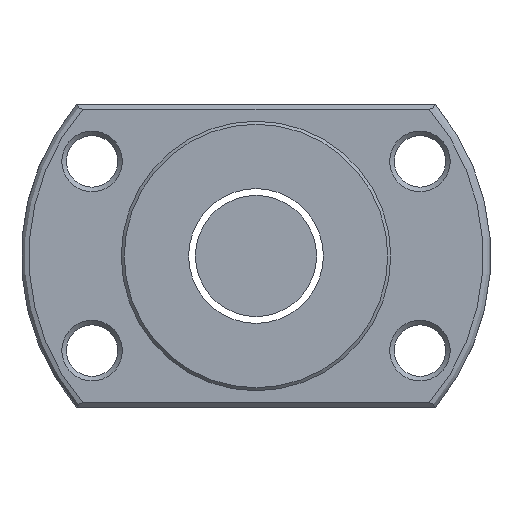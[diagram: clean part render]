
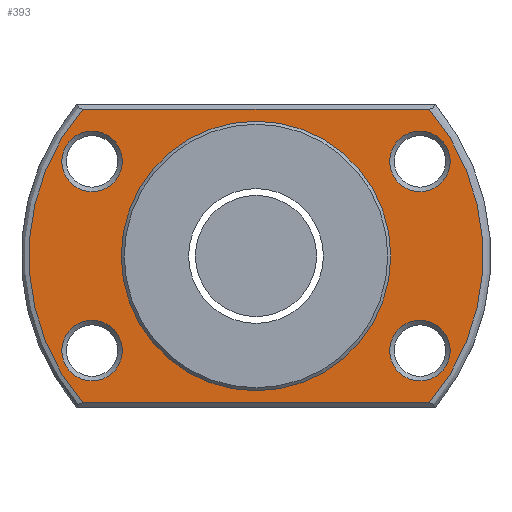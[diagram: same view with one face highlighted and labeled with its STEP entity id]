
A CAD part, left-side view. The second image highlights one B-rep face of the part: STEP entity #393.
In plain terms, the highlighted planar face has unit normal (-1, 0, 0).
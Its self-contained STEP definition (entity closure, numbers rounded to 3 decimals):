
#5 = DIRECTION ( 'NONE',  ( -1., 0., 0. ) ) ;
#7 = DIRECTION ( 'NONE',  ( 0., 1., 0. ) ) ;
#11 = VERTEX_POINT ( 'NONE', #191 ) ;
#12 = CARTESIAN_POINT ( 'NONE',  ( -20., -10.825, 6.25 ) ) ;
#25 = CIRCLE ( 'NONE', #187, 8.7 ) ;
#47 = VERTEX_POINT ( 'NONE', #839 ) ;
#66 = EDGE_CURVE ( 'NONE', #1028, #1028, #179, .T. ) ;
#89 = DIRECTION ( 'NONE',  ( 0., -1., 0. ) ) ;
#139 = CARTESIAN_POINT ( 'NONE',  ( -20., 8.825, -6.25 ) ) ;
#159 = CARTESIAN_POINT ( 'NONE',  ( -20., -12.825, -6.25 ) ) ;
#179 = CIRCLE ( 'NONE', #344, 2. ) ;
#187 = AXIS2_PLACEMENT_3D ( 'NONE', #210, #229, #323 ) ;
#191 = CARTESIAN_POINT ( 'NONE',  ( -20., 11.442, 9.7 ) ) ;
#198 = CARTESIAN_POINT ( 'NONE',  ( -20., -11.442, 9.7 ) ) ;
#201 = EDGE_LOOP ( 'NONE', ( #1059 ) ) ;
#210 = CARTESIAN_POINT ( 'NONE',  ( -20., 0., 0. ) ) ;
#229 = DIRECTION ( 'NONE',  ( 1., 0., 0. ) ) ;
#234 = VERTEX_POINT ( 'NONE', #1183 ) ;
#250 = CARTESIAN_POINT ( 'NONE',  ( -20., -11.442, -9.7 ) ) ;
#256 = CIRCLE ( 'NONE', #528, 15. ) ;
#261 = EDGE_CURVE ( 'NONE', #822, #822, #1063, .T. ) ;
#268 = CIRCLE ( 'NONE', #439, 2. ) ;
#280 = EDGE_LOOP ( 'NONE', ( #893, #1092, #798, #401 ) ) ;
#285 = DIRECTION ( 'NONE',  ( 1., 0., 0. ) ) ;
#288 = CARTESIAN_POINT ( 'NONE',  ( -20., 11.18, 9.7 ) ) ;
#292 = CARTESIAN_POINT ( 'NONE',  ( -20., -11.18, -9.7 ) ) ;
#313 = DIRECTION ( 'NONE',  ( -1., 0., 0. ) ) ;
#315 = EDGE_CURVE ( 'NONE', #11, #234, #256, .T. ) ;
#318 = CARTESIAN_POINT ( 'NONE',  ( -20., 10.825, 6.25 ) ) ;
#320 = FACE_BOUND ( 'NONE', #1247, .T. ) ;
#323 = DIRECTION ( 'NONE',  ( 0., -1., 0. ) ) ;
#340 = CARTESIAN_POINT ( 'NONE',  ( -20., 0., 0. ) ) ;
#344 = AXIS2_PLACEMENT_3D ( 'NONE', #777, #285, #1231 ) ;
#359 = ORIENTED_EDGE ( 'NONE', *, *, #886, .T. ) ;
#376 = AXIS2_PLACEMENT_3D ( 'NONE', #1017, #313, #1134 ) ;
#393 = ADVANCED_FACE ( 'NONE', ( #1129, #633, #320, #427, #530, #1121 ), #1113, .T. ) ;
#401 = ORIENTED_EDGE ( 'NONE', *, *, #1069, .T. ) ;
#424 = AXIS2_PLACEMENT_3D ( 'NONE', #340, #511, #734 ) ;
#427 = FACE_BOUND ( 'NONE', #1267, .T. ) ;
#435 = EDGE_CURVE ( 'NONE', #556, #722, #1212, .T. ) ;
#439 = AXIS2_PLACEMENT_3D ( 'NONE', #318, #915, #725 ) ;
#471 = ORIENTED_EDGE ( 'NONE', *, *, #829, .T. ) ;
#503 = CARTESIAN_POINT ( 'NONE',  ( -20., 0., 0. ) ) ;
#511 = DIRECTION ( 'NONE',  ( -1., 0., 0. ) ) ;
#528 = AXIS2_PLACEMENT_3D ( 'NONE', #503, #5, #1282 ) ;
#530 = FACE_BOUND ( 'NONE', #201, .T. ) ;
#533 = CARTESIAN_POINT ( 'NONE',  ( -20., -12.825, 6.25 ) ) ;
#556 = VERTEX_POINT ( 'NONE', #250 ) ;
#570 = LINE ( 'NONE', #288, #1158 ) ;
#616 = DIRECTION ( 'NONE',  ( 1., 0., 0. ) ) ;
#629 = AXIS2_PLACEMENT_3D ( 'NONE', #12, #688, #985 ) ;
#633 = FACE_BOUND ( 'NONE', #800, .T. ) ;
#646 = CIRCLE ( 'NONE', #1077, 2. ) ;
#649 = CARTESIAN_POINT ( 'NONE',  ( -20., 8.825, 6.25 ) ) ;
#675 = EDGE_CURVE ( 'NONE', #234, #556, #1163, .T. ) ;
#688 = DIRECTION ( 'NONE',  ( 1., 0., 0. ) ) ;
#722 = VERTEX_POINT ( 'NONE', #198 ) ;
#725 = DIRECTION ( 'NONE',  ( 0., -1., 0. ) ) ;
#734 = DIRECTION ( 'NONE',  ( 0., -1., 0. ) ) ;
#748 = VECTOR ( 'NONE', #89, 1000. ) ;
#777 = CARTESIAN_POINT ( 'NONE',  ( -20., 10.825, -6.25 ) ) ;
#788 = EDGE_CURVE ( 'NONE', #1045, #1045, #268, .T. ) ;
#797 = DIRECTION ( 'NONE',  ( 0., -1., 0. ) ) ;
#798 = ORIENTED_EDGE ( 'NONE', *, *, #435, .T. ) ;
#800 = EDGE_LOOP ( 'NONE', ( #471 ) ) ;
#822 = VERTEX_POINT ( 'NONE', #533 ) ;
#829 = EDGE_CURVE ( 'NONE', #1039, #1039, #646, .T. ) ;
#839 = CARTESIAN_POINT ( 'NONE',  ( -20., -8.7, 0. ) ) ;
#842 = ORIENTED_EDGE ( 'NONE', *, *, #788, .T. ) ;
#886 = EDGE_CURVE ( 'NONE', #47, #47, #25, .T. ) ;
#893 = ORIENTED_EDGE ( 'NONE', *, *, #315, .T. ) ;
#915 = DIRECTION ( 'NONE',  ( 1., 0., 0. ) ) ;
#985 = DIRECTION ( 'NONE',  ( 0., -1., 0. ) ) ;
#1017 = CARTESIAN_POINT ( 'NONE',  ( -20., 15.5, 0. ) ) ;
#1028 = VERTEX_POINT ( 'NONE', #139 ) ;
#1039 = VERTEX_POINT ( 'NONE', #159 ) ;
#1045 = VERTEX_POINT ( 'NONE', #649 ) ;
#1059 = ORIENTED_EDGE ( 'NONE', *, *, #66, .T. ) ;
#1063 = CIRCLE ( 'NONE', #629, 2. ) ;
#1069 = EDGE_CURVE ( 'NONE', #722, #11, #570, .T. ) ;
#1077 = AXIS2_PLACEMENT_3D ( 'NONE', #1110, #616, #797 ) ;
#1092 = ORIENTED_EDGE ( 'NONE', *, *, #675, .T. ) ;
#1110 = CARTESIAN_POINT ( 'NONE',  ( -20., -10.825, -6.25 ) ) ;
#1113 = PLANE ( 'NONE',  #376 ) ;
#1121 = FACE_OUTER_BOUND ( 'NONE', #280, .T. ) ;
#1129 = FACE_BOUND ( 'NONE', #1172, .T. ) ;
#1134 = DIRECTION ( 'NONE',  ( 0., -1., 0. ) ) ;
#1159 = ORIENTED_EDGE ( 'NONE', *, *, #261, .T. ) ;
#1158 = VECTOR ( 'NONE', #7, 1000. ) ;
#1163 = LINE ( 'NONE', #292, #748 ) ;
#1172 = EDGE_LOOP ( 'NONE', ( #359 ) ) ;
#1183 = CARTESIAN_POINT ( 'NONE',  ( -20., 11.442, -9.7 ) ) ;
#1212 = CIRCLE ( 'NONE', #424, 15. ) ;
#1231 = DIRECTION ( 'NONE',  ( 0., -1., 0. ) ) ;
#1247 = EDGE_LOOP ( 'NONE', ( #1159 ) ) ;
#1267 = EDGE_LOOP ( 'NONE', ( #842 ) ) ;
#1282 = DIRECTION ( 'NONE',  ( 0., -1., 0. ) ) ;
